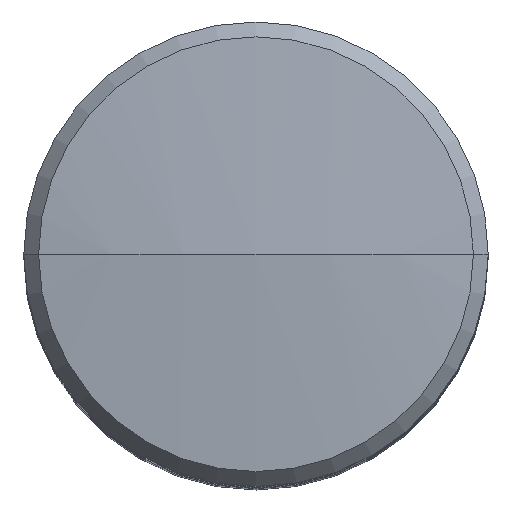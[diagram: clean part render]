
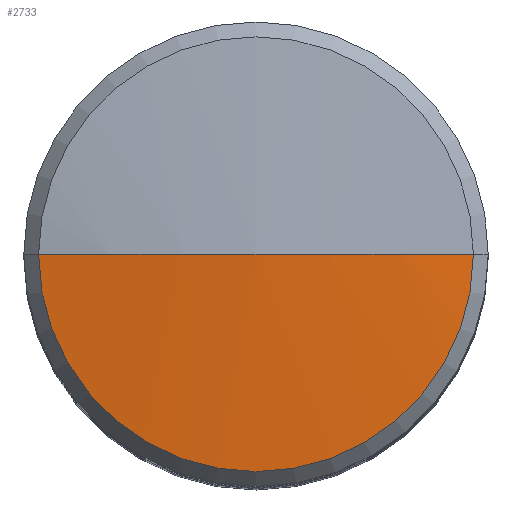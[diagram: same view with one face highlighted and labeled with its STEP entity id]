
A CAD part, top view. The second image highlights one B-rep face of the part: STEP entity #2733.
In plain terms, the highlighted spherical face has radius 162.733 mm.
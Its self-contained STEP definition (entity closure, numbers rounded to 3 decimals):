
#96 = AXIS2_PLACEMENT_3D ( 'NONE', #2023, #4996, #6014 ) ;
#446 = CIRCLE ( 'NONE', #2442, 162.733 ) ;
#457 = EDGE_LOOP ( 'NONE', ( #577, #4867, #1127 ) ) ;
#577 = ORIENTED_EDGE ( 'NONE', *, *, #2969, .F. ) ;
#868 = VERTEX_POINT ( 'NONE', #1372 ) ;
#889 = AXIS2_PLACEMENT_3D ( 'NONE', #5754, #1735, #6240 ) ;
#909 = SPHERICAL_SURFACE ( 'NONE', #889, 162.733 ) ;
#1041 = EDGE_CURVE ( 'NONE', #868, #5960, #4607, .T. ) ;
#1127 = ORIENTED_EDGE ( 'NONE', *, *, #2182, .T. ) ;
#1372 = CARTESIAN_POINT ( 'NONE',  ( 23.4, 0., 502.289 ) ) ;
#1704 = CARTESIAN_POINT ( 'NONE',  ( 0., 0., 341.247 ) ) ;
#1735 = DIRECTION ( 'NONE',  ( 0., 1., 0. ) ) ;
#2023 = CARTESIAN_POINT ( 'NONE',  ( 0., 0., 502.289 ) ) ;
#2182 = EDGE_CURVE ( 'NONE', #868, #5858, #6059, .T. ) ;
#2211 = DIRECTION ( 'NONE',  ( 0., 0., 1. ) ) ;
#2442 = AXIS2_PLACEMENT_3D ( 'NONE', #1704, #5173, #2211 ) ;
#2607 = CARTESIAN_POINT ( 'NONE',  ( 0., 0., 341.247 ) ) ;
#2733 = ADVANCED_FACE ( 'NONE', ( #5888 ), #909, .T. ) ;
#2969 = EDGE_CURVE ( 'NONE', #5960, #5858, #446, .T. ) ;
#3098 = DIRECTION ( 'NONE',  ( 0., 0., -1. ) ) ;
#3587 = CARTESIAN_POINT ( 'NONE',  ( -23.4, 0., 502.289 ) ) ;
#4607 = CIRCLE ( 'NONE', #96, 23.4 ) ;
#4867 = ORIENTED_EDGE ( 'NONE', *, *, #1041, .F. ) ;
#4996 = DIRECTION ( 'NONE',  ( 0., 0., -1. ) ) ;
#5173 = DIRECTION ( 'NONE',  ( 0., 1., 0. ) ) ;
#5754 = CARTESIAN_POINT ( 'NONE',  ( 0., 0., 341.247 ) ) ;
#5805 = AXIS2_PLACEMENT_3D ( 'NONE', #2607, #6067, #3098 ) ;
#5858 = VERTEX_POINT ( 'NONE', #6289 ) ;
#5888 = FACE_OUTER_BOUND ( 'NONE', #457, .T. ) ;
#5960 = VERTEX_POINT ( 'NONE', #3587 ) ;
#6014 = DIRECTION ( 'NONE',  ( -1., 0., 0. ) ) ;
#6059 = CIRCLE ( 'NONE', #5805, 162.733 ) ;
#6067 = DIRECTION ( 'NONE',  ( 0., -1., 0. ) ) ;
#6240 = DIRECTION ( 'NONE',  ( 1., 0., 0. ) ) ;
#6289 = CARTESIAN_POINT ( 'NONE',  ( 0., 0., 503.98 ) ) ;
